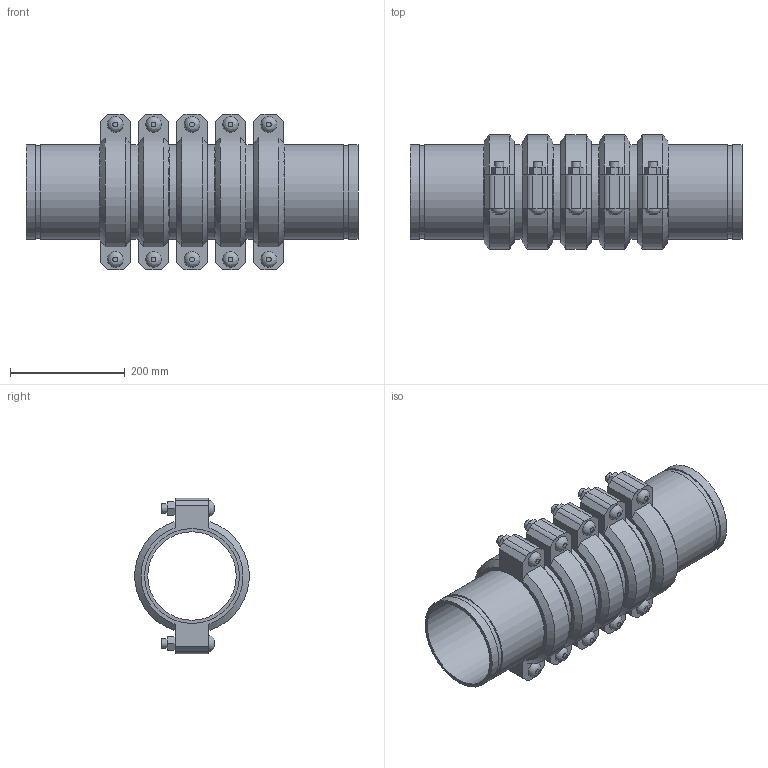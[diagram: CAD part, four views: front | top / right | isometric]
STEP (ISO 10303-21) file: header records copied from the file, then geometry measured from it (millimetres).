
FILE_DESCRIPTION(/* description */ ('VIC EXPANSION JOINT 5 COUPLINGS EXPANDED STYLE 155 (OGS)','CAx-IF Rec.Pracs.---Representation and Presentation of Product Manufacturing Information (PMI)---4.0---2014-10-13'),/* implementation_level */ '2;1');
FILE_NAME(/* name */ 'C:\Users\kkamble\AppData\Roaming\Autodesk\ApplicationPlugins\Victaulic.Temp\A557\Victaulic_IPS_Expansion Joint_Expanded_5 Couplings_Style 155 (OGS)_06.0 (165.1) (150).stp',/* time_stamp */ '2021-06-27T00:02:59+02:00',/* author */ ('kkamble'),/* organization */ ('Victaulic'),/* preprocessor_version */ 'ST-DEVELOPER v17.2',/* originating_system */ 'Autodesk Inventor 2019',/* authorisation */ '');
FILE_SCHEMA (('AP242_MANAGED_MODEL_BASED_3D_ENGINEERING_MIM_LF { 1 0 10303 442 1 1 4 }'));
Length unit declared in the file: inch
Products named in the file (4): 155-06.0 (165.1); Nipple-06.0 (165.1); Nipple-06.0 (165.1)_1; 075-06.0 (165.1)
Assembly tree (11 placements, depth 2):
  155-06.0 (165.1)
    Nipple-06.0 (165.1)  x2
    Nipple-06.0 (165.1)_1  x4
    075-06.0 (165.1)  x5
Bounding box: 577.6 x 198.42 x 270.76 mm (x, y, z)
Volume: 4969361.6 mm3; surface area: 1164421.5 mm2
Topology: 11 solids, 21 shells, 357 faces, 845 edges, 594 vertices
Faces by surface type: plane 216, cylinder 111, cone 20, bspline 10
Full cylindrical faces by diameter (mm): 15.875 x20, 17.424 x10, 153.975 x6, 158.75 x5, 160.782 x12, 165.1 x28
Entity records: 2801 total; most frequent: CARTESIAN_POINT 495, DIRECTION 465, ORIENTED_EDGE 386, EDGE_CURVE 193, AXIS2_PLACEMENT_3D 186, VERTEX_POINT 138, EDGE_LOOP 107, LINE 93
